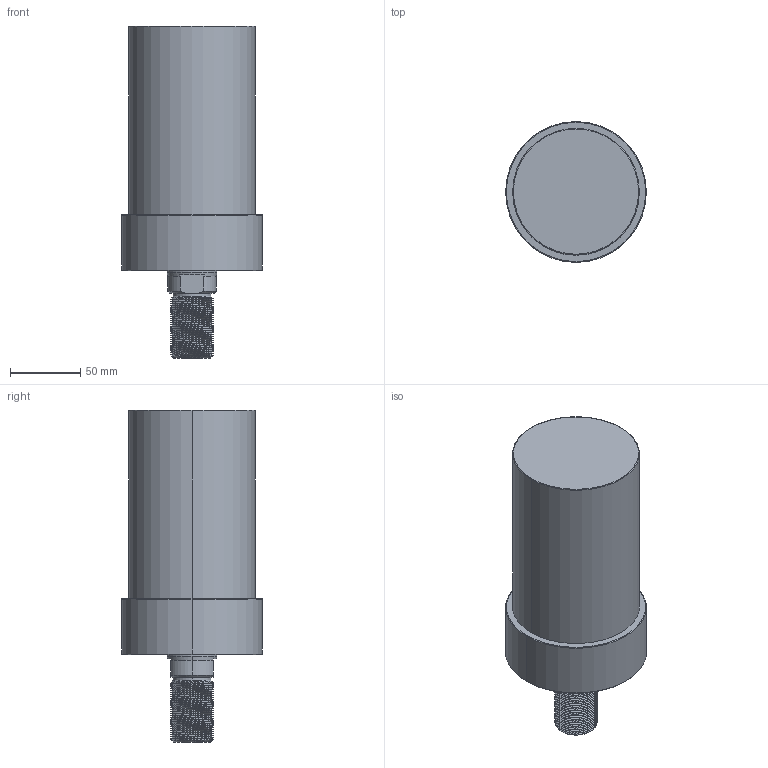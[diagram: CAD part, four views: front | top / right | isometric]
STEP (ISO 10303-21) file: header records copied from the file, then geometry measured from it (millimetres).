
FILE_DESCRIPTION (( 'STEP AP203' ), '1' );
FILE_NAME ('CLLU-090GT-090.STEP', '2020-01-15T01:25:21', ( '' ), ( '' ), 'SwSTEP 2.0', 'SolidWorks 2015', '' );
FILE_SCHEMA (( 'CONFIG_CONTROL_DESIGN' ));
Length unit declared in the file: millimetre
Products named in the file (1): CLLU-090GT-090
Bounding box: 100 x 100 x 236 mm (x, y, z)
Volume: 1204490.7 mm3; surface area: 78076.7 mm2
Topology: 1 solids, 1 shells, 123 faces, 321 edges, 201 vertices
Faces by surface type: cylinder 79, cone 25, plane 11, torus 6, bspline 2
Entity records: 7138 total; most frequent: CARTESIAN_POINT 4398, ORIENTED_EDGE 626, DIRECTION 505, EDGE_CURVE 313, VERTEX_POINT 201, AXIS2_PLACEMENT_3D 199, EDGE_LOOP 132, ADVANCED_FACE 123
